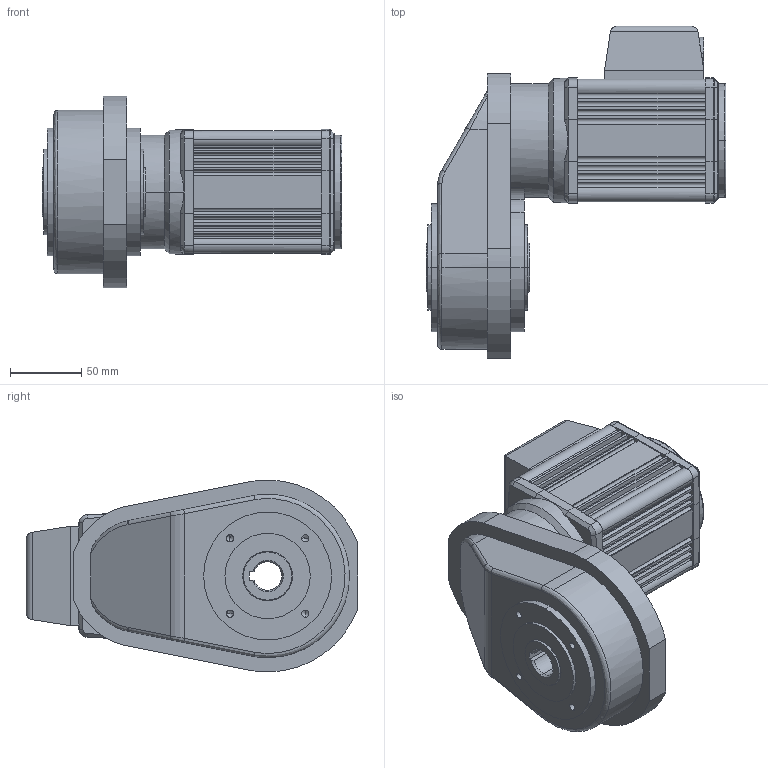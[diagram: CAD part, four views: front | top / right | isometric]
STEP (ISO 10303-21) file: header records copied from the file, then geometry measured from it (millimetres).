
FILE_DESCRIPTION(('OneSpaceDesigner STEP Export'),'2;1');
FILE_NAME('UEG51_FB30.stp','2010-04-13T 9:24:53',(''),(''),'OneSpace Designer STEP processor (Jan. 2003) for AP214(CD)(Solid Model)','OneSpace Designer 12.01D 09-Jul-2004 (C) CoCreate Software GmbH','');
FILE_SCHEMA(('AUTOMOTIVE_DESIGN_CC2 {1 2 10303 214 -1 1 5 1}'));
Length unit declared in the file: millimetre
Products named in the file (2): UEG51_FB30
Assembly tree (1 placements, depth 2):
  UEG51_FB30
    UEG51_FB30
Bounding box: 211 x 233.5 x 135 mm (x, y, z)
Volume: 2077576.9 mm3; surface area: 162478 mm2
Topology: 1 solids, 1 shells, 431 faces, 1130 edges, 698 vertices
Faces by surface type: plane 201, cylinder 173, cone 38, torus 10, bspline 9
Entity records: 13989 total; most frequent: CARTESIAN_POINT 4089, ORIENTED_EDGE 2228, DIRECTION 1794, EDGE_CURVE 1114, VERTEX_POINT 698, VECTOR 692, LINE 692, AXIS2_PLACEMENT_3D 551
